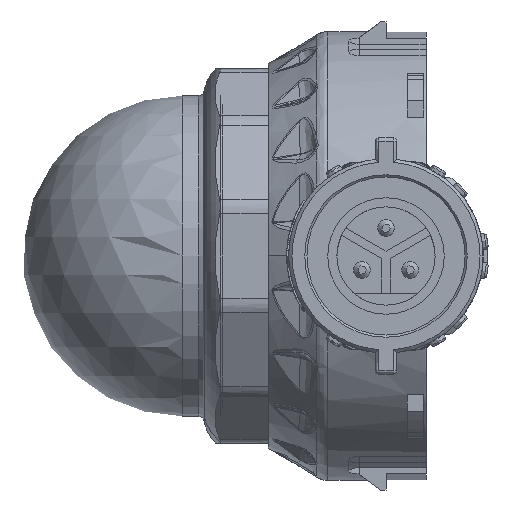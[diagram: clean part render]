
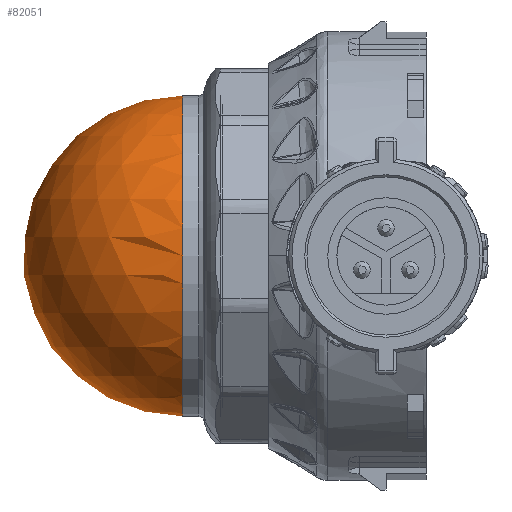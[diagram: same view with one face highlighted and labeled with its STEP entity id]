
A CAD part, left-side view. The second image highlights one B-rep face of the part: STEP entity #82051.
In plain terms, the highlighted spherical face has radius 15 mm.
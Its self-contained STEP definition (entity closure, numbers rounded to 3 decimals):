
#1808 = DIRECTION ( 'NONE',  ( -1., 0., 0. ) ) ;
#7672 = CARTESIAN_POINT ( 'NONE',  ( 0., 22.75, 0. ) ) ;
#11886 = FACE_OUTER_BOUND ( 'NONE', #71931, .T. ) ;
#16718 = ORIENTED_EDGE ( 'NONE', *, *, #88578, .T. ) ;
#19290 = CARTESIAN_POINT ( 'NONE',  ( -15., 22.75, 0. ) ) ;
#38485 = DIRECTION ( 'NONE',  ( 0., 1., 0. ) ) ;
#39690 = AXIS2_PLACEMENT_3D ( 'NONE', #7672, #38485, #1808 ) ;
#56698 = SPHERICAL_SURFACE ( 'NONE', #71101, 15. ) ;
#58125 = CIRCLE ( 'NONE', #39690, 15. ) ;
#63386 = DIRECTION ( 'NONE',  ( 1., 0., 0. ) ) ;
#71053 = CARTESIAN_POINT ( 'NONE',  ( 0., 22.75, 0. ) ) ;
#71101 = AXIS2_PLACEMENT_3D ( 'NONE', #71053, #77812, #63386 ) ;
#71931 = EDGE_LOOP ( 'NONE', ( #16718 ) ) ;
#77812 = DIRECTION ( 'NONE',  ( 0., 0., -1. ) ) ;
#82051 = ADVANCED_FACE ( 'NONE', ( #11886 ), #56698, .T. ) ;
#85192 = VERTEX_POINT ( 'NONE', #19290 ) ;
#88578 = EDGE_CURVE ( 'NONE', #85192, #85192, #58125, .T. ) ;
